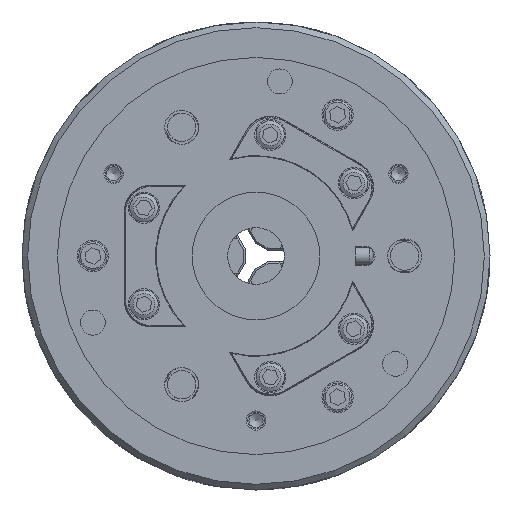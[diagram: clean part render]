
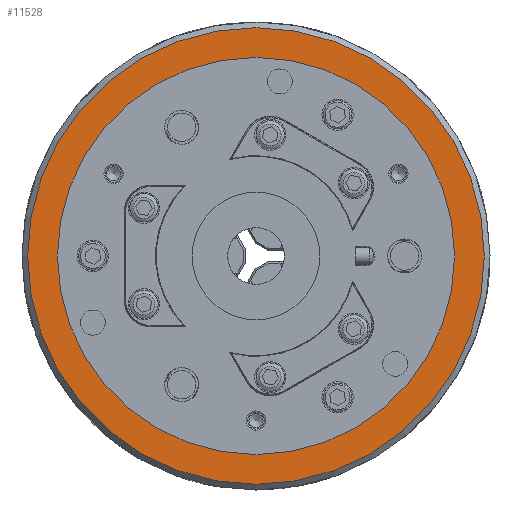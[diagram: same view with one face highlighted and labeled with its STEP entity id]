
A CAD part, left-side view. The second image highlights one B-rep face of the part: STEP entity #11528.
In plain terms, the highlighted planar face has unit normal (-1, 0, 0).
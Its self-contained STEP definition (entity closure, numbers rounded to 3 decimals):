
#2500 = CARTESIAN_POINT ( 'NONE',  ( -87., 0., -70. ) ) ;
#3047 = AXIS2_PLACEMENT_3D ( 'NONE', #64484, #44065, #44505 ) ;
#4713 = AXIS2_PLACEMENT_3D ( 'NONE', #29755, #64334, #19801 ) ;
#11528 = ADVANCED_FACE ( 'NONE', ( #36734, #23269 ), #39500, .T. ) ;
#13830 = CIRCLE ( 'NONE', #15379, 80.5 ) ;
#14611 = CIRCLE ( 'NONE', #3047, 70. ) ;
#15379 = AXIS2_PLACEMENT_3D ( 'NONE', #24689, #25142, #59985 ) ;
#18949 = ORIENTED_EDGE ( 'NONE', *, *, #19404, .T. ) ;
#19404 = EDGE_CURVE ( 'NONE', #35560, #35560, #14611, .T. ) ;
#19801 = DIRECTION ( 'NONE',  ( 0., 0., 1. ) ) ;
#23269 = FACE_OUTER_BOUND ( 'NONE', #24122, .T. ) ;
#24122 = EDGE_LOOP ( 'NONE', ( #37672 ) ) ;
#24689 = CARTESIAN_POINT ( 'NONE',  ( -87., 0., 0. ) ) ;
#25142 = DIRECTION ( 'NONE',  ( 1., 0., 0. ) ) ;
#27606 = VERTEX_POINT ( 'NONE', #59009 ) ;
#29755 = CARTESIAN_POINT ( 'NONE',  ( -87., 40.25, -69.715 ) ) ;
#35560 = VERTEX_POINT ( 'NONE', #2500 ) ;
#36734 = FACE_BOUND ( 'NONE', #41991, .T. ) ;
#37672 = ORIENTED_EDGE ( 'NONE', *, *, #52852, .F. ) ;
#39500 = PLANE ( 'NONE',  #4713 ) ;
#41991 = EDGE_LOOP ( 'NONE', ( #18949 ) ) ;
#44065 = DIRECTION ( 'NONE',  ( 1., 0., 0. ) ) ;
#44505 = DIRECTION ( 'NONE',  ( 0., 0., -1. ) ) ;
#52852 = EDGE_CURVE ( 'NONE', #27606, #27606, #13830, .T. ) ;
#59009 = CARTESIAN_POINT ( 'NONE',  ( -87., 0., -80.5 ) ) ;
#59985 = DIRECTION ( 'NONE',  ( 0., 0., -1. ) ) ;
#64334 = DIRECTION ( 'NONE',  ( -1., 0., 0. ) ) ;
#64484 = CARTESIAN_POINT ( 'NONE',  ( -87., 0., 0. ) ) ;
